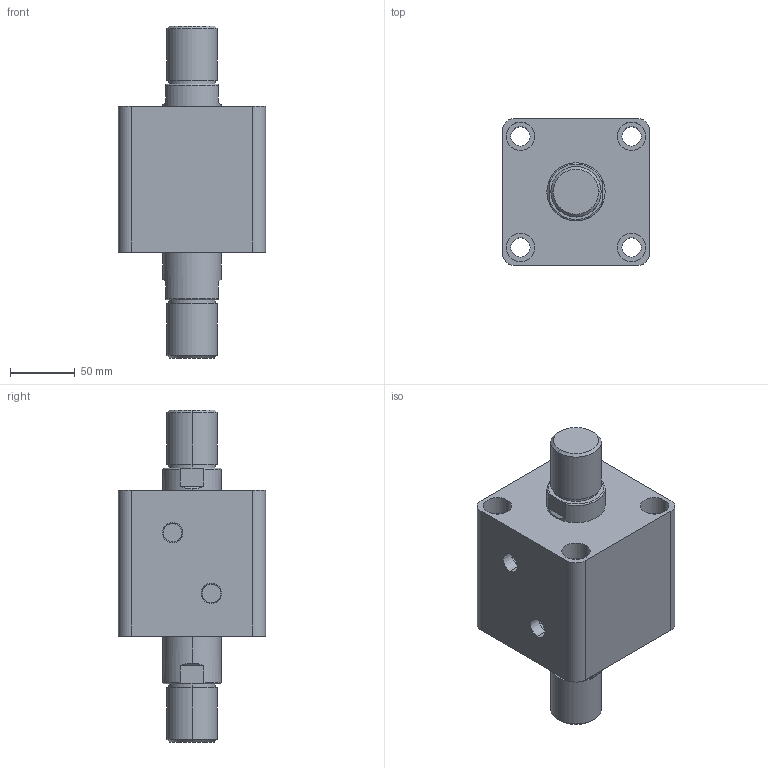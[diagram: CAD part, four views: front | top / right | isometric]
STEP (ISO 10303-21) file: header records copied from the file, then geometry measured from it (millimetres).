
FILE_DESCRIPTION (( 'STEP AP203' ), '1' );
FILE_NAME ('HTB-SW80-20W.STEP', '2019-10-07T10:20:35', ( '微软用户' ), ( '微软中国' ), 'SwSTEP 2.0', 'SolidWorks 2012', '' );
FILE_SCHEMA (( 'CONFIG_CONTROL_DESIGN' ));
Length unit declared in the file: millimetre
Products named in the file (3): HTB-SW80-20W; HTB-SW80-20W活塞杆; HTB-SW80-20掛极
Assembly tree (2 placements, depth 2):
  HTB-SW80-20W
    HTB-SW80-20掛极
    HTB-SW80-20W活塞杆
Bounding box: 114 x 114 x 257 mm (x, y, z)
Volume: 1472027.4 mm3; surface area: 172598.9 mm2
Topology: 2 solids, 2 shells, 108 faces, 240 edges, 156 vertices
Faces by surface type: cylinder 52, plane 36, torus 12, cone 8
Entity records: 3449 total; most frequent: CARTESIAN_POINT 629, DIRECTION 586, ORIENTED_EDGE 480, AXIS2_PLACEMENT_3D 249, EDGE_CURVE 240, VERTEX_POINT 156, EDGE_LOOP 138, CIRCLE 136
